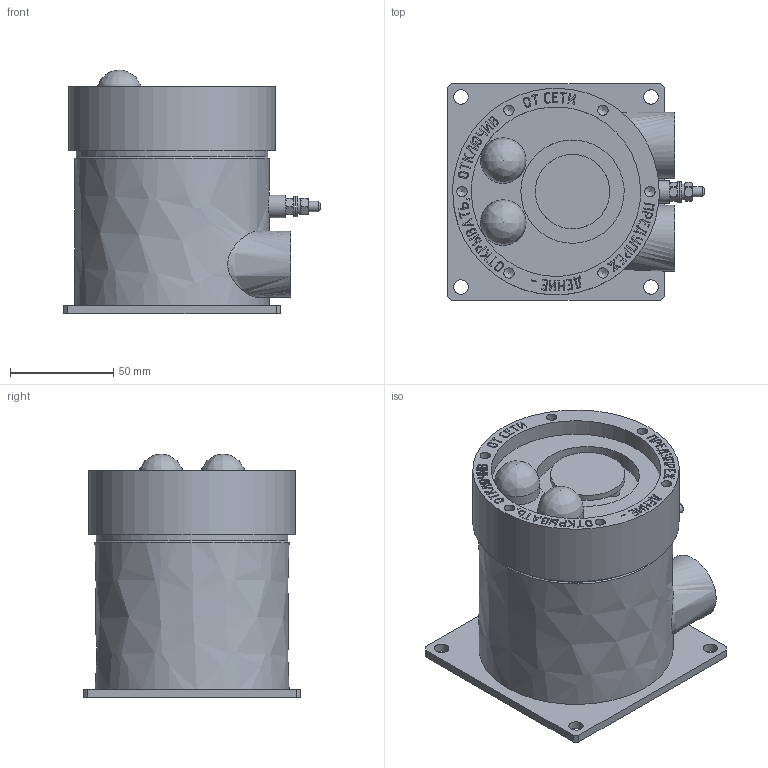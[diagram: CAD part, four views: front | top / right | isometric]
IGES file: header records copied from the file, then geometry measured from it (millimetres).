
Global section: file name: ExОПЗС стальной М27; native system: Autodesk Inventor 2016; preprocessor: unknown; author: hudyakovak; date: 20180131.151633; units: millimetre
Bounding box: 124.4 x 105 x 118 mm (x, y, z)
Volume: 726122 mm3; surface area: 79651.8 mm2
Topology: 2 solids, 2 shells, 751 faces, 2052 edges, 1376 vertices
Faces by surface type: bspline 751
